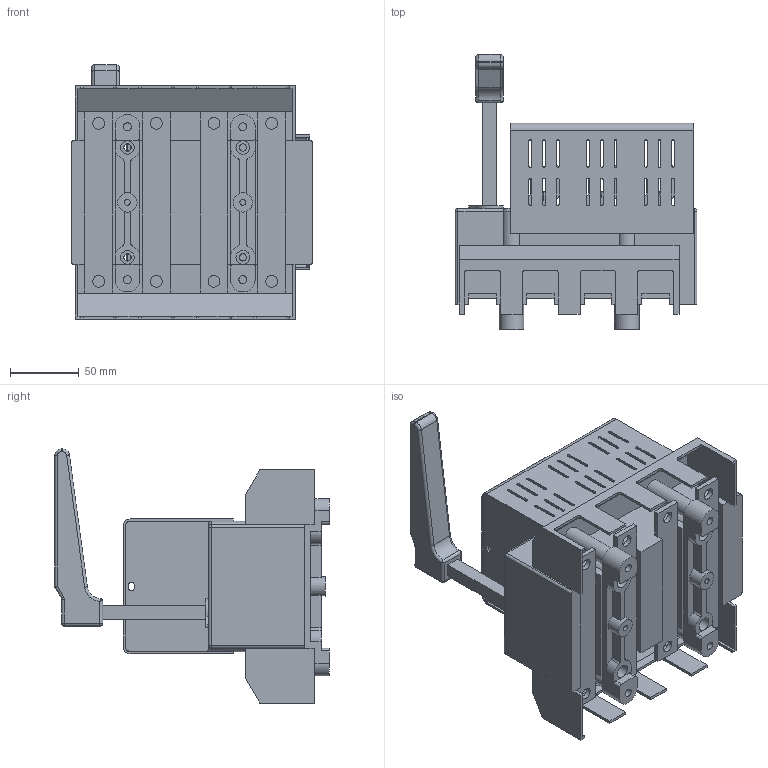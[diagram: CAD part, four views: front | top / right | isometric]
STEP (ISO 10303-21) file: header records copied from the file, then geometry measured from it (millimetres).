
FILE_DESCRIPTION(/* description */ (''),/* implementation_level */ '2;1');
FILE_NAME(/* name */ 'RAB 00 P3 N-R z oslona zaciskow.stp',/* time_stamp */ '2021-08-19T10:55:07+02:00',/* author */ (''),/* organization */ (''),/* preprocessor_version */ 'ST-DEVELOPER v18.1',/* originating_system */ 'SIEMENS PLM Software NX 1965',/* authorisation */ '');
FILE_SCHEMA (('AUTOMOTIVE_DESIGN { 1 0 10303 214 3 1 1 1 }'));
Length unit declared in the file: millimetre
Products named in the file (1): RAB 00 P3 N-R z oslona zaciskow
Bounding box: 176 x 200 x 185 mm (x, y, z)
Volume: 1357151.8 mm3; surface area: 294518.1 mm2
Topology: 1 solids, 1 shells, 976 faces, 2807 edges, 1830 vertices
Faces by surface type: plane 616, cylinder 338, torus 12, sphere 10
Full cylindrical faces by diameter (mm): 2.7 x4, 4.3 x2, 5 x6, 5.3 x4, 5.8 x4, 8.5 x8, 10 x12, 13 x4, 14 x2
Entity records: 31761 total; most frequent: CARTESIAN_POINT 5685, ORIENTED_EDGE 5422, DIRECTION 5359, EDGE_CURVE 2711, LINE 1969, VECTOR 1969, VERTEX_POINT 1782, AXIS2_PLACEMENT_3D 1695
